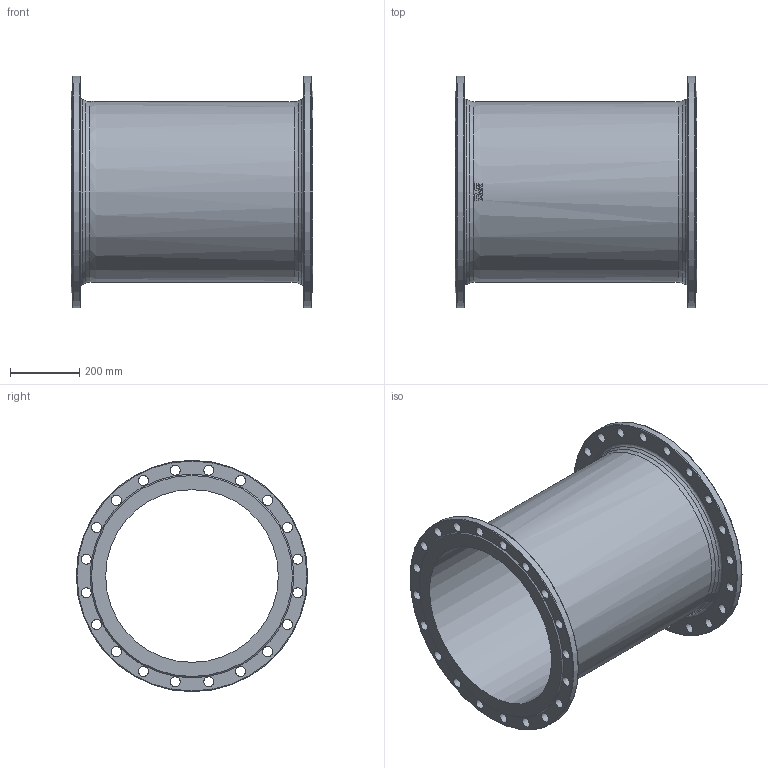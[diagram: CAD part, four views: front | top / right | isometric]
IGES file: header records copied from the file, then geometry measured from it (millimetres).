
Start section: SolidWorks IGES file using analytic representation for surfaces
Global section: file name: \\avksan2\techshare\PBM outline export from Enovia\O_712_5010_DN500_0X_REV01.igs; native system: SolidWorks 2019; preprocessor: SolidWorks 2019; author: pbm; date: 211203.112200; units: millimetre
Bounding box: 700 x 670 x 670 mm (x, y, z)
Surface area: 2843322.4 mm2 (no closed solid volume)
Topology: 0 solids, 0 shells, 103 faces, 527 edges, 470 vertices
Faces by surface type: revolution 60, bspline 43
